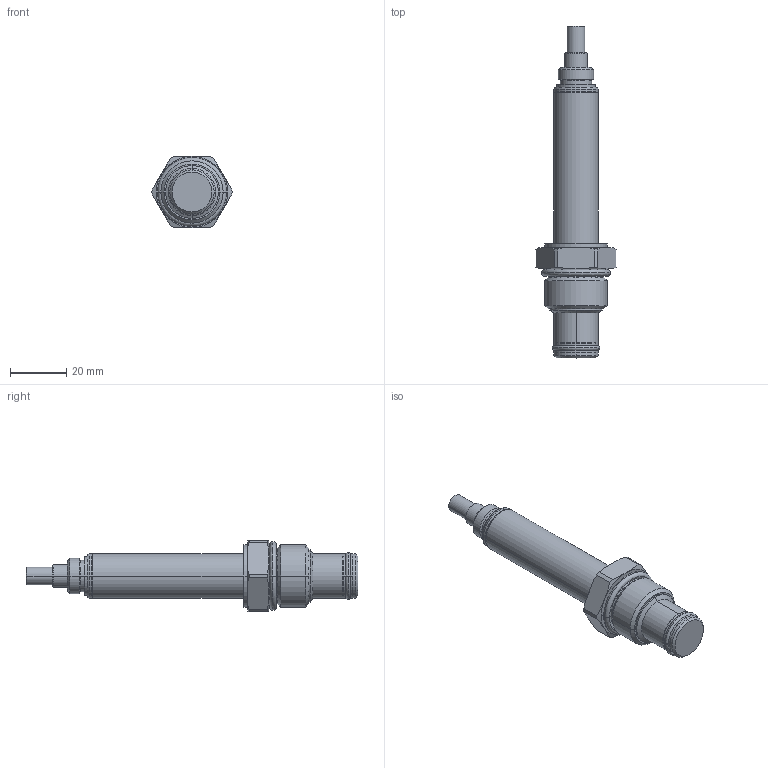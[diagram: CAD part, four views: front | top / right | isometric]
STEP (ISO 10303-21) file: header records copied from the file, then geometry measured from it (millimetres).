
FILE_DESCRIPTION((''),'2;1');
FILE_NAME('5024885_SW0001','2009-03-02T',('JCS'),(''),'PRO/ENGINEER BY PARAMETRIC TECHNOLOGY CORPORATION, 2008010','PRO/ENGINEER BY PARAMETRIC TECHNOLOGY CORPORATION, 2008010','');
FILE_SCHEMA(('CONFIG_CONTROL_DESIGN'));
Length unit declared in the file: inch
Products named in the file (1): 5024885_SW0001
Bounding box: 28.57 x 118.54 x 25.4 mm (x, y, z)
Volume: 26247.6 mm3; surface area: 8296.3 mm2
Topology: 3 solids, 3 shells, 135 faces, 286 edges, 168 vertices
Faces by surface type: cone 42, cylinder 40, plane 23, revolution 16, torus 14
Entity records: 3998 total; most frequent: CARTESIAN_POINT 1003, DIRECTION 664, ORIENTED_EDGE 572, EDGE_CURVE 286, AXIS2_PLACEMENT_3D 283, VERTEX_POINT 168, CIRCLE 164, EDGE_LOOP 150
